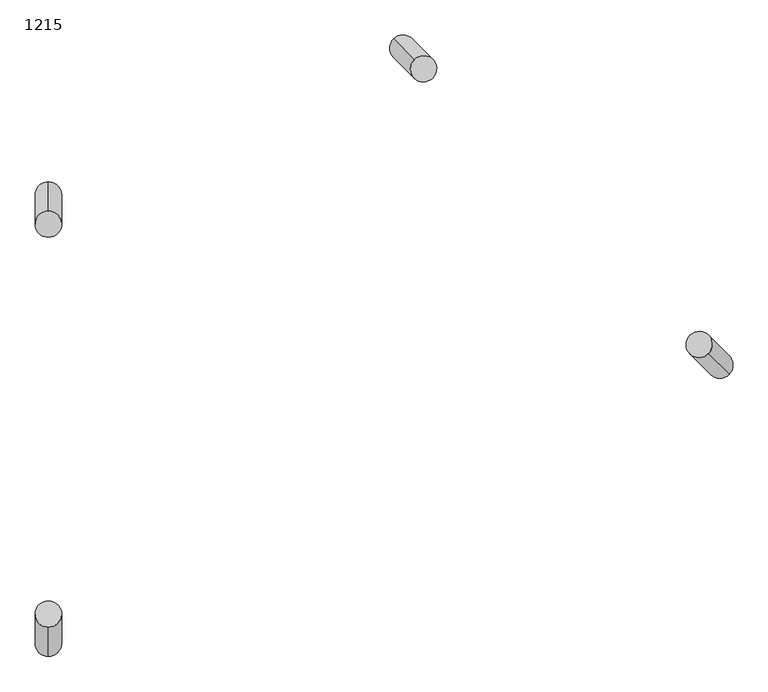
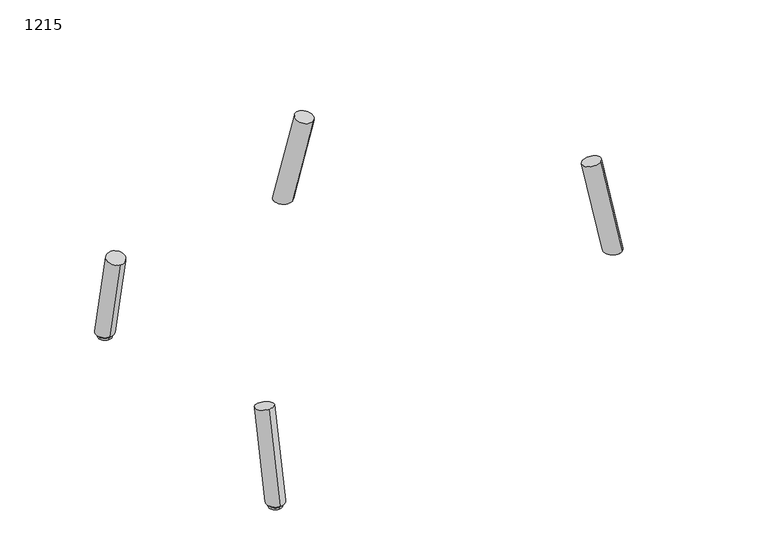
"""IFC4 building model written with IfcOpenShell, lengths in millimetres: furniture geometry, Laguna-Modular-Outside_Curve-ERG : 1215."""

from ifc_helpers import new_model, si_unit, frame, origin, place, context, project, spatial, circle_curve, ellipse_curve, source, transform, mapped, element, save
from ifc_brep_helpers import plane_surface, cylinder_surface, advanced_brep


def furniture_1215_f6887f57(model_context):
    return source(origin(), model_context, "Body", "AdvancedBrep", [
        advanced_brep(
        [(-4643.2737656, 337.5968832, 10.16), (-4643.2737656, 341.8399313, 10.16), (-4643.2737656, 333.353835, 10.16), (-4643.2737656, 323.5185297, 0.0), (-4643.2737656, 351.6752366, 0.0), (-4643.2737656, 337.5968832, 0.0), (-4643.2737656, 323.5185297, 3.9615026), (-4643.2737656, 351.6752366, 3.9615026), (-4643.2737656, 333.353835, 3.9615026), (-4643.2737656, 341.8399313, 3.9615026)],
        [
            (0, 1),
            (1, 2, circle_curve(frame((-4643.2737656, 337.5968832, 10.16), z_axis=(0.0, 0.0, 1.0), x_axis=(0.0, 1.0, 0.0)), 4.2430482)),
            (2, 0),
            (2, 1, circle_curve(frame((-4643.2737656, 337.5968832, 10.16), z_axis=(0.0, 0.0, 1.0), x_axis=(0.0, 1.0, 0.0)), 4.2430482)),
            (3, 4, circle_curve(frame((-4643.2737656, 337.5968832, 0.0), z_axis=(0.0, 0.0, -1.0), x_axis=(0.0, 1.0, 0.0)), 14.0783534)),
            (4, 5),
            (5, 3),
            (4, 3, circle_curve(frame((-4643.2737656, 337.5968832, 0.0), z_axis=(0.0, 0.0, -1.0), x_axis=(0.0, 1.0, 0.0)), 14.0783534)),
            (6, 7, circle_curve(frame((-4643.2737656, 337.5968832, 3.9615026), z_axis=(0.0, 0.0, -1.0), x_axis=(0.0, 1.0, 0.0)), 14.0783534)),
            (7, 4),
            (3, 6),
            (7, 6, circle_curve(frame((-4643.2737656, 337.5968832, 3.9615026), z_axis=(0.0, 0.0, -1.0), x_axis=(0.0, 1.0, 0.0)), 14.0783534)),
            (8, 9, circle_curve(frame((-4643.2737656, 337.5968832, 3.9615026), z_axis=(0.0, 0.0, -1.0), x_axis=(0.0, 1.0, 0.0)), 4.2430482)),
            (9, 7),
            (6, 8),
            (9, 8, circle_curve(frame((-4643.2737656, 337.5968832, 3.9615026), z_axis=(0.0, 0.0, -1.0), x_axis=(0.0, 1.0, 0.0)), 4.2430482)),
            (1, 9),
            (8, 2),
        ],
        [
            plane_surface(frame((-4643.2737656, 337.5968832, 10.16), z_axis=(0.0, 0.0, 1.0), x_axis=(0.0, 1.0, 0.0))),
            plane_surface(frame((-4643.2737656, 337.5968832, 0.0), z_axis=(0.0, 0.0, -1.0), x_axis=(0.0, 1.0, 0.0))),
            cylinder_surface(frame((-4643.2737656, 337.5968832, 10.16), z_axis=(0.0, 0.0, 1.0), x_axis=(0.0, 1.0, 0.0)), 14.0783534),
            plane_surface(frame((-4643.2737656, 337.5968832, 3.9615026), z_axis=(0.0, 0.0, 1.0), x_axis=(0.0, 1.0, 0.0))),
            cylinder_surface(frame((-4643.2737656, 337.5968832, 10.16), z_axis=(0.0, 0.0, 1.0), x_axis=(0.0, 1.0, 0.0)), 4.2430482),
        ],
        [
            (0, [[1, 2, 3]]),
            (0, [[-3, 4, -1]]),
            (1, [[5, 6, 7]]),
            (1, [[8, -7, -6]]),
            (2, [[9, 10, -5, 11]]),
            (2, [[12, -11, -8, -10]]),
            (3, [[13, 14, -9, 15]]),
            (3, [[16, -15, -12, -14]]),
            (4, [[-2, 17, -13, 18]]),
            (4, [[-4, -18, -16, -17]]),
        ],
    ),
        advanced_brep(
        [(-4643.2737656, 976.2268276, 10.16), (-4643.2737656, 980.4698758, 10.16), (-4643.2737656, 971.9837794, 10.16), (-4643.2737656, 962.1484742, 0.0), (-4643.2737656, 990.305181, 0.0), (-4643.2737656, 976.2268276, 0.0), (-4643.2737656, 962.1484742, 3.9615026), (-4643.2737656, 990.305181, 3.9615026), (-4643.2737656, 971.9837794, 3.9615026), (-4643.2737656, 980.4698758, 3.9615026)],
        [
            (0, 1),
            (1, 2, circle_curve(frame((-4643.2737656, 976.2268276, 10.16), z_axis=(0.0, 0.0, 1.0), x_axis=(0.0, 1.0, 0.0)), 4.2430482)),
            (2, 0),
            (2, 1, circle_curve(frame((-4643.2737656, 976.2268276, 10.16), z_axis=(0.0, 0.0, 1.0), x_axis=(0.0, 1.0, 0.0)), 4.2430482)),
            (3, 4, circle_curve(frame((-4643.2737656, 976.2268276, 0.0), z_axis=(0.0, 0.0, -1.0), x_axis=(0.0, 1.0, 0.0)), 14.0783534)),
            (4, 5),
            (5, 3),
            (4, 3, circle_curve(frame((-4643.2737656, 976.2268276, 0.0), z_axis=(0.0, 0.0, -1.0), x_axis=(0.0, 1.0, 0.0)), 14.0783534)),
            (6, 7, circle_curve(frame((-4643.2737656, 976.2268276, 3.9615026), z_axis=(0.0, 0.0, -1.0), x_axis=(0.0, 1.0, 0.0)), 14.0783534)),
            (7, 4),
            (3, 6),
            (7, 6, circle_curve(frame((-4643.2737656, 976.2268276, 3.9615026), z_axis=(0.0, 0.0, -1.0), x_axis=(0.0, 1.0, 0.0)), 14.0783534)),
            (8, 9, circle_curve(frame((-4643.2737656, 976.2268276, 3.9615026), z_axis=(0.0, 0.0, -1.0), x_axis=(0.0, 1.0, 0.0)), 4.2430482)),
            (9, 7),
            (6, 8),
            (9, 8, circle_curve(frame((-4643.2737656, 976.2268276, 3.9615026), z_axis=(0.0, 0.0, -1.0), x_axis=(0.0, 1.0, 0.0)), 4.2430482)),
            (1, 9),
            (8, 2),
        ],
        [
            plane_surface(frame((-4643.2737656, 976.2268276, 10.16), z_axis=(0.0, 0.0, 1.0), x_axis=(0.0, 1.0, 0.0))),
            plane_surface(frame((-4643.2737656, 976.2268276, 0.0), z_axis=(0.0, 0.0, -1.0), x_axis=(0.0, 1.0, 0.0))),
            cylinder_surface(frame((-4643.2737656, 976.2268276, 10.16), z_axis=(0.0, 0.0, 1.0), x_axis=(0.0, 1.0, 0.0)), 14.0783534),
            plane_surface(frame((-4643.2737656, 976.2268276, 3.9615026), z_axis=(0.0, 0.0, 1.0), x_axis=(0.0, 1.0, 0.0))),
            cylinder_surface(frame((-4643.2737656, 976.2268276, 10.16), z_axis=(0.0, 0.0, 1.0), x_axis=(0.0, 1.0, 0.0)), 4.2430482),
        ],
        [
            (0, [[1, 2, 3]]),
            (0, [[-3, 4, -1]]),
            (1, [[5, 6, 7]]),
            (1, [[8, -7, -6]]),
            (2, [[9, 10, -5, 11]]),
            (2, [[12, -11, -8, -10]]),
            (3, [[13, 14, -9, 15]]),
            (3, [[16, -15, -12, -14]]),
            (4, [[-2, 17, -13, 18]]),
            (4, [[-4, -18, -16, -17]]),
        ],
    ),
        advanced_brep(
        [(-3726.6645392, 776.4658589, 199.2392823), (-3700.3124913, 750.1138109, 207.1607177), (-3698.2458879, 748.0472075, 10.16), (-3670.7032467, 720.5045664, 10.16)],
        [
            (0, 1, circle_curve(frame((-3713.4885153, 763.2898349, 203.2), z_axis=(-0.14701576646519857, 0.1470157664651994, 0.9781476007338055), x_axis=(0.691654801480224, -0.691654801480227, 0.20791169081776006)), 19.05)),
            (1, 0, circle_curve(frame((-3713.4885153, 763.2898349, 203.2), z_axis=(-0.14701576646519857, 0.1470157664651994, 0.9781476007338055), x_axis=(0.691654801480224, -0.691654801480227, 0.20791169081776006)), 19.05)),
            (0, 2),
            (2, 3, ellipse_curve(frame((-3684.4745673, 734.275887, 10.16), z_axis=(0.0, 0.0, 1.0), x_axis=(-0.7071067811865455, 0.7071067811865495, 0.0)), 19.4755883, 19.05)),
            (3, 1),
            (3, 2, ellipse_curve(frame((-3684.4745673, 734.275887, 10.16), z_axis=(0.0, 0.0, 1.0), x_axis=(-0.7071067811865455, 0.7071067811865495, 0.0)), 19.4755883, 19.05)),
        ],
        [
            plane_surface(frame((-3713.4885153, 763.2898349, 203.2), z_axis=(-0.147015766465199, 0.14701576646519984, 0.9781476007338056), x_axis=(-0.7071067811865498, -0.7071067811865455, 0.0))),
            cylinder_surface(frame((-3713.4885153, 763.2898349, 203.2), z_axis=(-0.1470157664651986, 0.14701576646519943, 0.9781476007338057), x_axis=(0.691654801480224, -0.691654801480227, 0.20791169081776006)), 19.05),
            plane_surface(frame((-5060.079825, 1515.284486, 10.16), z_axis=(0.0, 0.0, -1.0), x_axis=(-1.0, 0.0, 0.0))),
        ],
        [
            (0, [[1, 2]]),
            (1, [[-1, 3, 4, 5]]),
            (1, [[-2, -5, 6, -3]]),
            (2, [[-4, -6]]),
        ],
    ),
        advanced_brep(
        [(-4120.5475776, 1170.3488972, 207.1607177), (-4094.1955296, 1143.9968493, 199.2392823), (-4150.1568221, 1199.9581417, 10.16), (-4122.6141809, 1172.4155006, 10.16)],
        [
            (0, 1, circle_curve(frame((-4107.3715536, 1157.1728732, 203.2), z_axis=(0.1470157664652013, -0.14701576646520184, 0.9781476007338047), x_axis=(0.6916548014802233, -0.6916548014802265, -0.2079116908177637)), 19.05)),
            (1, 0, circle_curve(frame((-4107.3715536, 1157.1728732, 203.2), z_axis=(0.1470157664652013, -0.14701576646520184, 0.9781476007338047), x_axis=(0.6916548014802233, -0.6916548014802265, -0.2079116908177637)), 19.05)),
            (0, 2),
            (2, 3, ellipse_curve(frame((-4136.3855015, 1186.1868212, 10.16), z_axis=(0.0, 0.0, 1.0), x_axis=(0.7071067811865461, -0.7071067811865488, 0.0)), 19.4755883, 19.05)),
            (3, 1),
            (3, 2, ellipse_curve(frame((-4136.3855015, 1186.1868212, 10.16), z_axis=(0.0, 0.0, 1.0), x_axis=(0.7071067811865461, -0.7071067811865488, 0.0)), 19.4755883, 19.05)),
        ],
        [
            plane_surface(frame((-4107.3715536, 1157.1728732, 203.2), z_axis=(0.14701576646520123, -0.14701576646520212, 0.9781476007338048), x_axis=(-0.7071067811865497, -0.7071067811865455, 0.0))),
            cylinder_surface(frame((-4107.3715536, 1157.1728732, 203.2), z_axis=(0.1470157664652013, -0.14701576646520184, 0.9781476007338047), x_axis=(0.6916548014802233, -0.6916548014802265, -0.2079116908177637)), 19.05),
            plane_surface(frame((-5060.079825, 1515.284486, 10.16), z_axis=(0.0, 0.0, -1.0), x_axis=(-1.0, 0.0, 0.0))),
        ],
        [
            (0, [[1, 2]]),
            (1, [[-1, 3, 4, 5]]),
            (1, [[-2, -5, 6, -3]]),
            (2, [[-4, -6]]),
        ],
    ),
        advanced_brep(
        [(-4643.2737656, 916.5611971, 199.2392823), (-4643.2737656, 953.8286207, 207.1607177), (-4643.2737656, 956.7512393, 10.16), (-4643.2737656, 995.7024159, 10.16)],
        [
            (0, 1, circle_curve(frame((-4643.2737656, 935.1949089, 203.2), z_axis=(0.0, -0.20791169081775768, 0.978147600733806), x_axis=(0.0, 0.978147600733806, 0.20791169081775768)), 19.05)),
            (1, 0, circle_curve(frame((-4643.2737656, 935.1949089, 203.2), z_axis=(0.0, -0.20791169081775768, 0.978147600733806), x_axis=(0.0, 0.978147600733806, 0.20791169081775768)), 19.05)),
            (0, 2),
            (2, 3, ellipse_curve(frame((-4643.2737656, 976.2268276, 10.16), z_axis=(0.0, 0.0, 1.0), x_axis=(0.0, -1.0, 0.0)), 19.4755883, 19.05)),
            (3, 1),
            (3, 2, ellipse_curve(frame((-4643.2737656, 976.2268276, 10.16), z_axis=(0.0, 0.0, 1.0), x_axis=(0.0, -1.0, 0.0)), 19.4755883, 19.05)),
        ],
        [
            plane_surface(frame((-4643.2737656, 935.1949089, 203.2), z_axis=(0.0, -0.20791169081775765, 0.978147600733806), x_axis=(1.0, 0.0, 0.0))),
            cylinder_surface(frame((-4643.2737656, 935.1949089, 203.2), z_axis=(0.0, -0.20791169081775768, 0.978147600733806), x_axis=(0.0, 0.978147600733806, 0.20791169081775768)), 19.05),
            plane_surface(frame((-5060.079825, 1515.284486, 10.16), z_axis=(0.0, 0.0, -1.0), x_axis=(-1.0, 0.0, 0.0))),
        ],
        [
            (0, [[1, 2]]),
            (1, [[-1, 3, 4, 5]]),
            (1, [[-2, -5, 6, -3]]),
            (2, [[-4, -6]]),
        ],
    ),
        advanced_brep(
        [(-4643.2737656, 359.5264623, 207.1607177), (-4643.2737656, 396.7938859, 199.2392823), (-4643.2737656, 317.6526671, 10.16), (-4643.2737656, 356.6038438, 10.16)],
        [
            (0, 1, circle_curve(frame((-4643.2737656, 378.1601741, 203.2), z_axis=(0.0, 0.20791169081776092, 0.9781476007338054), x_axis=(0.0, 0.9781476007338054, -0.20791169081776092)), 19.05)),
            (1, 0, circle_curve(frame((-4643.2737656, 378.1601741, 203.2), z_axis=(0.0, 0.20791169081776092, 0.9781476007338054), x_axis=(0.0, 0.9781476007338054, -0.20791169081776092)), 19.05)),
            (0, 2),
            (2, 3, ellipse_curve(frame((-4643.2737656, 337.1282555, 10.16), z_axis=(0.0, 0.0, 1.0), x_axis=(0.0, 1.0, 0.0)), 19.4755883, 19.05)),
            (3, 1),
            (3, 2, ellipse_curve(frame((-4643.2737656, 337.1282555, 10.16), z_axis=(0.0, 0.0, 1.0), x_axis=(0.0, 1.0, 0.0)), 19.4755883, 19.05)),
        ],
        [
            plane_surface(frame((-4643.2737656, 378.1601741, 203.2), z_axis=(0.0, 0.20791169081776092, 0.9781476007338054), x_axis=(1.0, 0.0, 0.0))),
            cylinder_surface(frame((-4643.2737656, 378.1601741, 203.2), z_axis=(0.0, 0.20791169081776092, 0.9781476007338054), x_axis=(0.0, 0.9781476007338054, -0.20791169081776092)), 19.05),
            plane_surface(frame((-5060.079825, 1515.284486, 10.16), z_axis=(0.0, 0.0, -1.0), x_axis=(-1.0, 0.0, 0.0))),
        ],
        [
            (0, [[1, 2]]),
            (1, [[-1, 3, 4, 5]]),
            (1, [[-2, -5, 6, -3]]),
            (2, [[-4, -6]]),
        ],
    ),
    ])


if __name__ == "__main__":
    model = new_model("IFC4")
    model_context = context("Model", 3, world=origin())
    ifc_project = project(units=[si_unit("LENGTHUNIT", "METRE", prefix="MILLI")], contexts=[model_context])
    site = spatial("IfcSite", under=ifc_project)
    building = spatial("IfcBuilding", under=site)
    placement = place(None, origin())
    furniture_1215_shape = furniture_1215_f6887f57(model_context)
    element("IfcFurniture", 1, ObjectType="Laguna-Modular-Outside_Curve-ERG : 1215", at=placement, inside=building, context=model_context, shape_type="MappedRepresentation", body=[
        mapped(furniture_1215_shape, transform((0.0, 0.0, 0.0), x_axis=(1.0, 0.0, 0.0), y_axis=(0.0, 1.0, 0.0), z_axis=(0.0, 0.0, 1.0))),
    ])
    save(model, "model.ifc")
